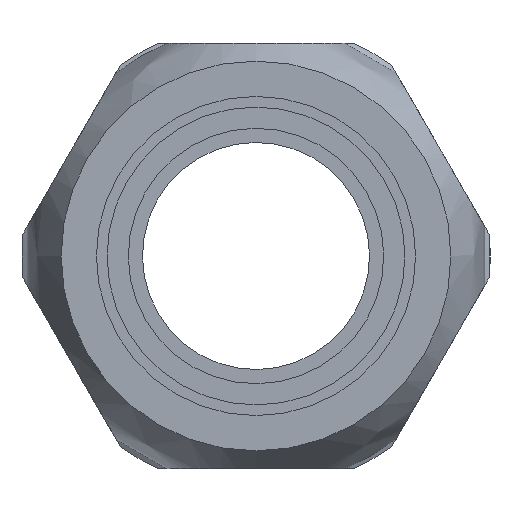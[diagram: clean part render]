
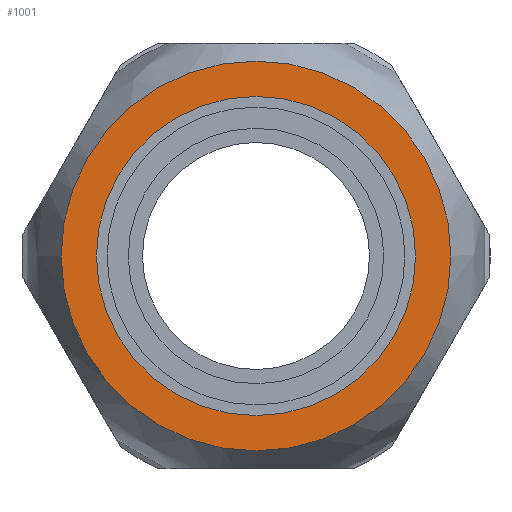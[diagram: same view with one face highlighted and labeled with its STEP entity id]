
A CAD part, left-side view. The second image highlights one B-rep face of the part: STEP entity #1001.
In plain terms, the highlighted planar face has unit normal (-1, 0, 0).
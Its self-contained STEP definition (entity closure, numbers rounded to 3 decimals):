
#106=FACE_BOUND('',#235,.T.);
#125=PLANE('',#1209);
#160=FACE_OUTER_BOUND('',#234,.T.);
#234=EDGE_LOOP('',(#772,#773));
#235=EDGE_LOOP('',(#774,#775));
#363=CIRCLE('',#1201,13.735);
#364=CIRCLE('',#1202,13.735);
#367=CIRCLE('',#1207,11.25);
#368=CIRCLE('',#1208,11.25);
#455=VERTEX_POINT('',#2117);
#456=VERTEX_POINT('',#2121);
#459=VERTEX_POINT('',#2130);
#460=VERTEX_POINT('',#2132);
#568=EDGE_CURVE('',#455,#456,#363,.T.);
#569=EDGE_CURVE('',#456,#455,#364,.T.);
#573=EDGE_CURVE('',#460,#459,#367,.T.);
#574=EDGE_CURVE('',#459,#460,#368,.T.);
#772=ORIENTED_EDGE('',*,*,#569,.F.);
#773=ORIENTED_EDGE('',*,*,#568,.F.);
#774=ORIENTED_EDGE('',*,*,#573,.T.);
#775=ORIENTED_EDGE('',*,*,#574,.T.);
#1001=ADVANCED_FACE('',(#160,#106),#125,.T.);
#1201=AXIS2_PLACEMENT_3D('',#2122,#1419,#1420);
#1202=AXIS2_PLACEMENT_3D('',#2123,#1421,#1422);
#1207=AXIS2_PLACEMENT_3D('',#2133,#1432,#1433);
#1208=AXIS2_PLACEMENT_3D('',#2134,#1434,#1435);
#1209=AXIS2_PLACEMENT_3D('',#2135,#1436,#1437);
#1419=DIRECTION('center_axis',(1.,0.,0.));
#1420=DIRECTION('ref_axis',(0.,1.,0.));
#1421=DIRECTION('center_axis',(1.,0.,0.));
#1422=DIRECTION('ref_axis',(0.,1.,0.));
#1432=DIRECTION('center_axis',(1.,0.,0.));
#1433=DIRECTION('ref_axis',(0.,1.,0.));
#1434=DIRECTION('center_axis',(1.,0.,0.));
#1435=DIRECTION('ref_axis',(0.,1.,0.));
#1436=DIRECTION('center_axis',(-1.,0.,0.));
#1437=DIRECTION('ref_axis',(0.,0.,1.));
#2117=CARTESIAN_POINT('',(0.,0.,13.735));
#2121=CARTESIAN_POINT('',(0.,13.735,0.));
#2122=CARTESIAN_POINT('Origin',(0.,0.,0.));
#2123=CARTESIAN_POINT('Origin',(0.,0.,0.));
#2130=CARTESIAN_POINT('',(0.,-11.25,0.));
#2132=CARTESIAN_POINT('',(0.,11.25,0.));
#2133=CARTESIAN_POINT('Origin',(0.,0.,0.));
#2134=CARTESIAN_POINT('Origin',(0.,0.,0.));
#2135=CARTESIAN_POINT('Origin',(0.,12.493,0.));
